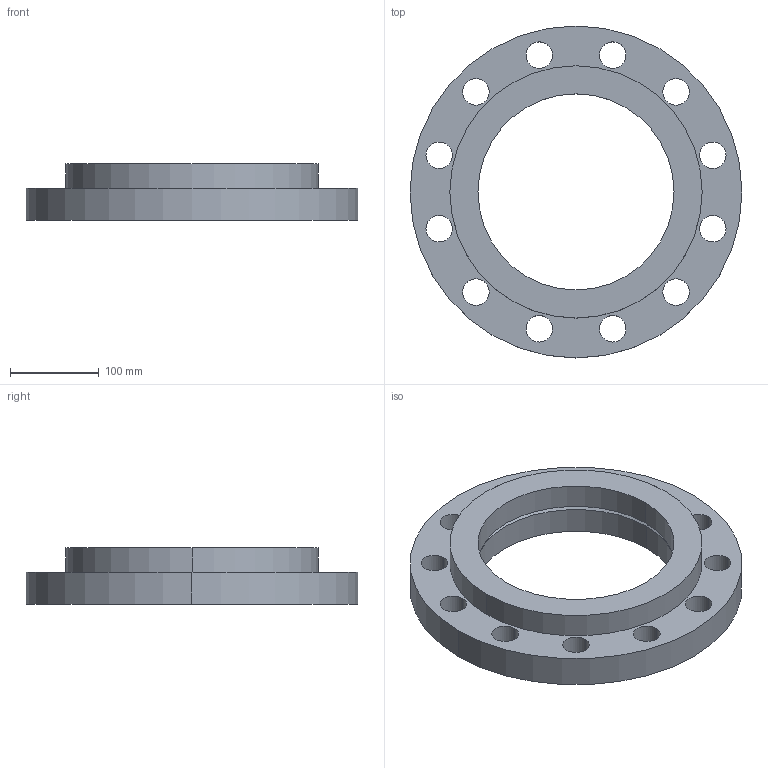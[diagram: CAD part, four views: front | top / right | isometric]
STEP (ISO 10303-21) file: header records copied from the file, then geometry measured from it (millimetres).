
FILE_DESCRIPTION (( 'STEP AP214' ), '1' );
FILE_NAME ('PN40 DN200 Type 02 in 32 - (Type A Face).STEP', '2019-01-05T02:27:03', ( '' ), ( '' ), 'SwSTEP 2.0', 'SolidWorks 2019', '' );
FILE_SCHEMA (( 'AUTOMOTIVE_DESIGN' ));
Length unit declared in the file: millimetre
Products named in the file (1): PN40 DN200 Type 02 in 32 - (Type A Face)
Bounding box: 375 x 375 x 64 mm (x, y, z)
Volume: 2920865.1 mm3; surface area: 325011.8 mm2
Topology: 2 solids, 2 shells, 38 faces, 100 edges, 66 vertices
Faces by surface type: cylinder 32, plane 4, cone 2
Entity records: 1313 total; most frequent: DIRECTION 244, CARTESIAN_POINT 205, ORIENTED_EDGE 200, AXIS2_PLACEMENT_3D 105, EDGE_CURVE 100, EDGE_LOOP 66, CIRCLE 66, VERTEX_POINT 66
